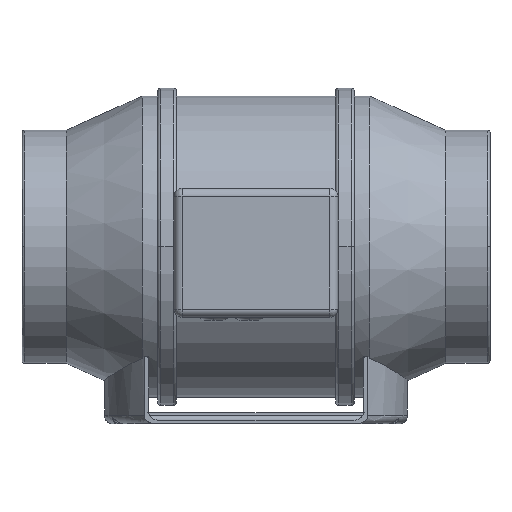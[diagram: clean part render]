
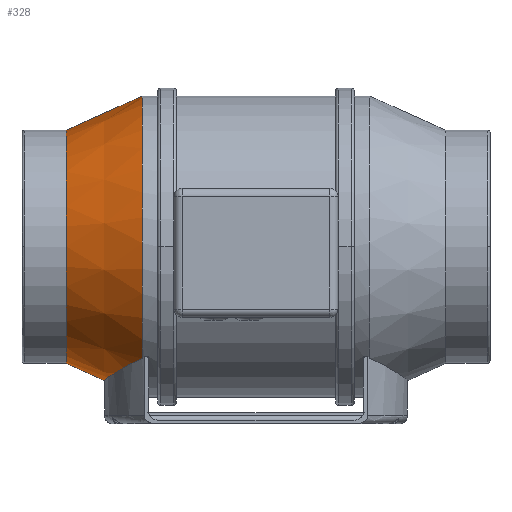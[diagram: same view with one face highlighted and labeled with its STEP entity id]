
A CAD part, top view. The second image highlights one B-rep face of the part: STEP entity #328.
In plain terms, the highlighted conical face has half-angle 24.218 degrees and reference radius 84.25 mm.
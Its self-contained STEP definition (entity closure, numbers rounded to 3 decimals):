
#328=ADVANCED_FACE('',(#876),#877,.T.);
#876=FACE_OUTER_BOUND('',#1654,.T.);
#877=CONICAL_SURFACE('',#1655,84.25,0.423);
#1654=EDGE_LOOP('',(#2587,#2588,#2589,#2590,#2591,#2592));
#1655=AXIS2_PLACEMENT_3D('',#2593,#2594,#2595);
#2587=ORIENTED_EDGE('',*,*,#4908,.F.);
#2588=ORIENTED_EDGE('',*,*,#4787,.T.);
#2589=ORIENTED_EDGE('',*,*,#4909,.F.);
#2590=ORIENTED_EDGE('',*,*,#4910,.T.);
#2591=ORIENTED_EDGE('',*,*,#4911,.T.);
#2592=ORIENTED_EDGE('',*,*,#4870,.F.);
#2593=CARTESIAN_POINT('',(-95.6,0.0,0.0));
#2594=DIRECTION('',(1.0,-0.0,-0.0));
#2595=DIRECTION('',(0.0,1.0,0.0));
#4787=EDGE_CURVE('',#5760,#5766,#5768,.T.);
#4870=EDGE_CURVE('',#5913,#5916,#5917,.T.);
#4908=EDGE_CURVE('',#5760,#5913,#5978,.T.);
#4909=EDGE_CURVE('',#5979,#5766,#5980,.T.);
#4910=EDGE_CURVE('',#5979,#5981,#5982,.T.);
#4911=EDGE_CURVE('',#5981,#5916,#5983,.T.);
#5760=VERTEX_POINT('',#7363);
#5766=VERTEX_POINT('',#7370);
#5768=CIRCLE('',#7373,73.5);
#5913=VERTEX_POINT('',#8119);
#5916=VERTEX_POINT('',#8123);
#5917=CIRCLE('',#8124,95.);
#5978=LINE('',#8276,#8277);
#5979=VERTEX_POINT('',#8278);
#5980=LINE('',#8279,#8280);
#5981=VERTEX_POINT('',#8281);
#5982=B_SPLINE_CURVE_WITH_KNOTS('',3,(#8282,#8283,#8284,#8285,#8286,#8287,#8288,#8289,#8290,#8291,#8292,#8293,#8294,#8295,#8296,#8297,#8298,#8299,#8300,#8301,#8302,#8303,#8304,#8305,#8306,#8307,#8308,#8309,#8310,#8311),.UNSPECIFIED.,.F.,.F.,(4,2,2,2,2,2,2,2,2,2,2,2,2,2,4),(1.774,3.549,5.323,7.097,8.671,10.244,11.818,13.392,14.965,16.539,18.113,19.686,21.46,23.235,25.009),.UNSPECIFIED.);
#5983=B_SPLINE_CURVE_WITH_KNOTS('',3,(#8312,#8313,#8314,#8315,#8316,#8317,#8318,#8319,#8320,#8321,#8322,#8323,#8324,#8325,#8326,#8327,#8328,#8329,#8330,#8331,#8332,#8333,#8334,#8335,#8336,#8337,#8338,#8339,#8340,#8341,#8342,#8343,#8344,#8345),.UNSPECIFIED.,.F.,.F.,(4,2,2,2,2,2,2,2,2,2,2,2,2,2,2,2,4),(0.0,10.606,21.212,31.818,42.424,53.03,63.636,74.242,84.848,95.454,106.06,116.666,127.272,137.878,148.485,159.091,169.697),.UNSPECIFIED.);
#7363=CARTESIAN_POINT('',(-119.5,73.5,0.0));
#7370=CARTESIAN_POINT('',(-119.5,-73.5,0.));
#7373=AXIS2_PLACEMENT_3D('',#13329,#13330,#13331);
#8119=CARTESIAN_POINT('',(-71.7,95.0,0.));
#8123=CARTESIAN_POINT('',(-71.7,-70.526,63.648));
#8124=AXIS2_PLACEMENT_3D('',#13448,#13449,#13450);
#8276=CARTESIAN_POINT('',(-95.6,84.25,0.));
#8277=VECTOR('',#13512,1.0);
#8278=CARTESIAN_POINT('',(-90.875,-86.375,0.));
#8279=CARTESIAN_POINT('',(-95.6,-84.25,0.));
#8280=VECTOR('',#13513,1.0);
#8281=CARTESIAN_POINT('',(-95.503,-83.87,8.435));
#8282=CARTESIAN_POINT('',(-96.944,-83.138,-9.195));
#8283=CARTESIAN_POINT('',(-96.422,-83.4,-8.972));
#8284=CARTESIAN_POINT('',(-95.908,-83.661,-8.698));
#8285=CARTESIAN_POINT('',(-94.931,-84.166,-8.063));
#8286=CARTESIAN_POINT('',(-94.467,-84.41,-7.699));
#8287=CARTESIAN_POINT('',(-93.618,-84.862,-6.905));
#8288=CARTESIAN_POINT('',(-93.232,-85.07,-6.473));
#8289=CARTESIAN_POINT('',(-92.593,-85.418,-5.627));
#8290=CARTESIAN_POINT('',(-92.309,-85.575,-5.187));
#8291=CARTESIAN_POINT('',(-91.804,-85.854,-4.242));
#8292=CARTESIAN_POINT('',(-91.583,-85.977,-3.737));
#8293=CARTESIAN_POINT('',(-91.229,-86.176,-2.693));
#8294=CARTESIAN_POINT('',(-91.094,-86.252,-2.152));
#8295=CARTESIAN_POINT('',(-90.917,-86.351,-1.068));
#8296=CARTESIAN_POINT('',(-90.875,-86.375,-0.525));
#8297=CARTESIAN_POINT('',(-90.875,-86.375,0.525));
#8298=CARTESIAN_POINT('',(-90.917,-86.351,1.068));
#8299=CARTESIAN_POINT('',(-91.094,-86.252,2.152));
#8300=CARTESIAN_POINT('',(-91.229,-86.176,2.693));
#8301=CARTESIAN_POINT('',(-91.583,-85.977,3.737));
#8302=CARTESIAN_POINT('',(-91.804,-85.854,4.242));
#8303=CARTESIAN_POINT('',(-92.309,-85.575,5.187));
#8304=CARTESIAN_POINT('',(-92.593,-85.418,5.627));
#8305=CARTESIAN_POINT('',(-93.232,-85.07,6.473));
#8306=CARTESIAN_POINT('',(-93.618,-84.862,6.905));
#8307=CARTESIAN_POINT('',(-94.467,-84.41,7.699));
#8308=CARTESIAN_POINT('',(-94.931,-84.166,8.063));
#8309=CARTESIAN_POINT('',(-95.908,-83.661,8.698));
#8310=CARTESIAN_POINT('',(-96.422,-83.4,8.972));
#8311=CARTESIAN_POINT('',(-96.944,-83.138,9.195));
#8312=CARTESIAN_POINT('',(-60.513,-66.904,-74.366));
#8313=CARTESIAN_POINT('',(-63.211,-67.53,-72.169));
#8314=CARTESIAN_POINT('',(-65.797,-68.317,-69.821));
#8315=CARTESIAN_POINT('',(-70.709,-70.08,-64.842));
#8316=CARTESIAN_POINT('',(-73.036,-71.054,-62.21));
#8317=CARTESIAN_POINT('',(-77.4,-73.065,-56.689));
#8318=CARTESIAN_POINT('',(-79.437,-74.101,-53.799));
#8319=CARTESIAN_POINT('',(-83.19,-76.126,-47.791));
#8320=CARTESIAN_POINT('',(-84.906,-77.115,-44.673));
#8321=CARTESIAN_POINT('',(-87.987,-78.959,-38.249));
#8322=CARTESIAN_POINT('',(-89.354,-79.814,-34.94));
#8323=CARTESIAN_POINT('',(-91.711,-81.324,-28.177));
#8324=CARTESIAN_POINT('',(-92.702,-81.979,-24.724));
#8325=CARTESIAN_POINT('',(-94.289,-83.04,-17.732));
#8326=CARTESIAN_POINT('',(-94.886,-83.447,-14.193));
#8327=CARTESIAN_POINT('',(-95.679,-83.99,-7.095));
#8328=CARTESIAN_POINT('',(-95.875,-84.126,-3.535));
#8329=CARTESIAN_POINT('',(-95.875,-84.126,3.535));
#8330=CARTESIAN_POINT('',(-95.679,-83.99,7.095));
#8331=CARTESIAN_POINT('',(-94.886,-83.447,14.193));
#8332=CARTESIAN_POINT('',(-94.289,-83.04,17.732));
#8333=CARTESIAN_POINT('',(-92.702,-81.979,24.724));
#8334=CARTESIAN_POINT('',(-91.711,-81.324,28.177));
#8335=CARTESIAN_POINT('',(-89.354,-79.814,34.94));
#8336=CARTESIAN_POINT('',(-87.987,-78.959,38.249));
#8337=CARTESIAN_POINT('',(-84.906,-77.115,44.673));
#8338=CARTESIAN_POINT('',(-83.19,-76.126,47.791));
#8339=CARTESIAN_POINT('',(-79.437,-74.101,53.799));
#8340=CARTESIAN_POINT('',(-77.4,-73.065,56.689));
#8341=CARTESIAN_POINT('',(-73.036,-71.054,62.21));
#8342=CARTESIAN_POINT('',(-70.709,-70.08,64.842));
#8343=CARTESIAN_POINT('',(-65.797,-68.317,69.821));
#8344=CARTESIAN_POINT('',(-63.211,-67.53,72.169));
#8345=CARTESIAN_POINT('',(-60.513,-66.904,74.366));
#13329=CARTESIAN_POINT('',(-119.5,0.0,0.0));
#13330=DIRECTION('',(1.0,0.0,0.0));
#13331=DIRECTION('',(0.0,1.0,0.0));
#13448=CARTESIAN_POINT('',(-71.7,0.0,0.0));
#13449=DIRECTION('',(1.0,0.0,0.0));
#13450=DIRECTION('',(0.0,1.0,0.0));
#13512=DIRECTION('',(0.912,0.41,0.));
#13513=DIRECTION('',(-0.912,0.41,0.));
